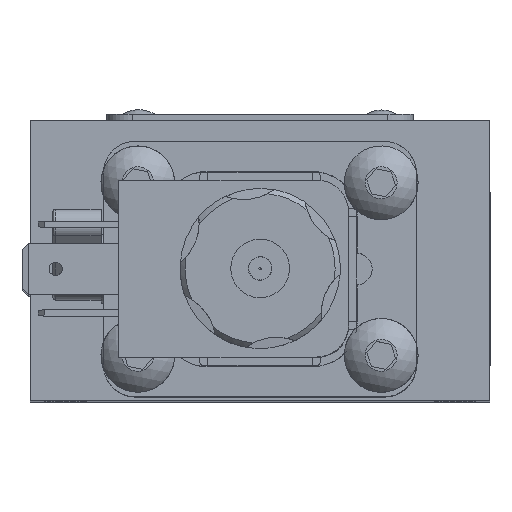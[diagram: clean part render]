
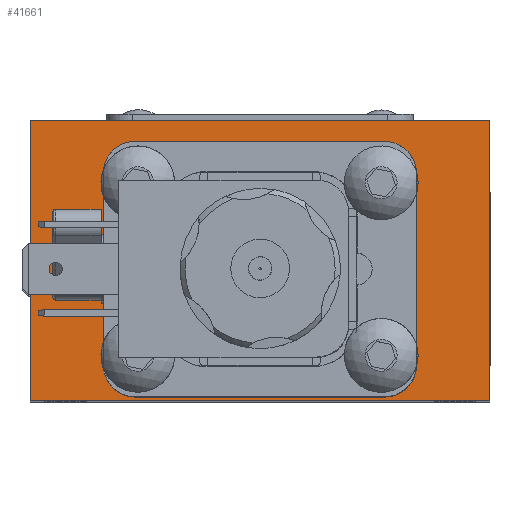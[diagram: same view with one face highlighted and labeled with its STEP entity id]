
A CAD part, top view. The second image highlights one B-rep face of the part: STEP entity #41661.
In plain terms, the highlighted planar face has unit normal (0, 0, 1).
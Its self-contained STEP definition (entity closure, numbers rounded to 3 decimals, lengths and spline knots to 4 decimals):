
#311=FACE_BOUND('',#11616,.T.);
#1361=PLANE('',#44658);
#2783=LINE('',#67185,#5826);
#2788=LINE('',#67220,#5831);
#2789=LINE('',#67222,#5832);
#2790=LINE('',#67223,#5833);
#2791=LINE('',#67226,#5834);
#2792=LINE('',#67230,#5835);
#2793=LINE('',#67234,#5836);
#2794=LINE('',#67238,#5837);
#5826=VECTOR('',#50824,1.);
#5831=VECTOR('',#50855,1.);
#5832=VECTOR('',#50856,1.);
#5833=VECTOR('',#50857,1.);
#5834=VECTOR('',#50858,1.);
#5835=VECTOR('',#50861,1.);
#5836=VECTOR('',#50864,1.);
#5837=VECTOR('',#50867,1.);
#9174=FACE_OUTER_BOUND('',#11615,.T.);
#11615=EDGE_LOOP('',(#29424,#29425,#29426,#29427));
#11616=EDGE_LOOP('',(#29428,#29429,#29430,#29431,#29432,#29433,#29434,#29435));
#14234=CIRCLE('',#44659,0.3969);
#14235=CIRCLE('',#44660,0.3969);
#14236=CIRCLE('',#44661,0.3969);
#14237=CIRCLE('',#44662,0.3969);
#17568=VERTEX_POINT('',#67181);
#17569=VERTEX_POINT('',#67183);
#17586=VERTEX_POINT('',#67219);
#17587=VERTEX_POINT('',#67221);
#17588=VERTEX_POINT('',#67224);
#17589=VERTEX_POINT('',#67225);
#17590=VERTEX_POINT('',#67227);
#17591=VERTEX_POINT('',#67229);
#17592=VERTEX_POINT('',#67231);
#17593=VERTEX_POINT('',#67233);
#17594=VERTEX_POINT('',#67235);
#17595=VERTEX_POINT('',#67237);
#22004=EDGE_CURVE('',#17568,#17569,#2783,.T.);
#22021=EDGE_CURVE('',#17586,#17569,#2788,.T.);
#22022=EDGE_CURVE('',#17586,#17587,#2789,.T.);
#22023=EDGE_CURVE('',#17587,#17568,#2790,.T.);
#22024=EDGE_CURVE('',#17588,#17589,#2791,.T.);
#22025=EDGE_CURVE('',#17589,#17590,#14234,.T.);
#22026=EDGE_CURVE('',#17590,#17591,#2792,.T.);
#22027=EDGE_CURVE('',#17591,#17592,#14235,.T.);
#22028=EDGE_CURVE('',#17592,#17593,#2793,.T.);
#22029=EDGE_CURVE('',#17593,#17594,#14236,.T.);
#22030=EDGE_CURVE('',#17594,#17595,#2794,.T.);
#22031=EDGE_CURVE('',#17595,#17588,#14237,.T.);
#29424=ORIENTED_EDGE('',*,*,#22004,.T.);
#29425=ORIENTED_EDGE('',*,*,#22021,.F.);
#29426=ORIENTED_EDGE('',*,*,#22022,.T.);
#29427=ORIENTED_EDGE('',*,*,#22023,.T.);
#29428=ORIENTED_EDGE('',*,*,#22024,.T.);
#29429=ORIENTED_EDGE('',*,*,#22025,.T.);
#29430=ORIENTED_EDGE('',*,*,#22026,.T.);
#29431=ORIENTED_EDGE('',*,*,#22027,.T.);
#29432=ORIENTED_EDGE('',*,*,#22028,.T.);
#29433=ORIENTED_EDGE('',*,*,#22029,.T.);
#29434=ORIENTED_EDGE('',*,*,#22030,.T.);
#29435=ORIENTED_EDGE('',*,*,#22031,.T.);
#41661=ADVANCED_FACE('',(#9174,#311),#1361,.T.);
#44658=AXIS2_PLACEMENT_3D('',#67218,#50853,#50854);
#44659=AXIS2_PLACEMENT_3D('',#67228,#50859,#50860);
#44660=AXIS2_PLACEMENT_3D('',#67232,#50862,#50863);
#44661=AXIS2_PLACEMENT_3D('',#67236,#50865,#50866);
#44662=AXIS2_PLACEMENT_3D('',#67239,#50868,#50869);
#50824=DIRECTION('',(-1.,0.,0.));
#50853=DIRECTION('center_axis',(0.,0.,1.));
#50854=DIRECTION('ref_axis',(1.,0.,0.));
#50855=DIRECTION('',(0.,1.,0.));
#50856=DIRECTION('',(1.,0.,0.));
#50857=DIRECTION('',(0.,1.,0.));
#50858=DIRECTION('',(1.,0.,0.));
#50859=DIRECTION('center_axis',(0.,0.,
-1.));
#50860=DIRECTION('ref_axis',(-1.,0.,0.));
#50861=DIRECTION('',(0.,-1.,0.));
#50862=DIRECTION('center_axis',(0.,0.,
-1.));
#50863=DIRECTION('ref_axis',(0.,1.,0.));
#50864=DIRECTION('',(-1.,0.,0.));
#50865=DIRECTION('center_axis',(0.,0.,
-1.));
#50866=DIRECTION('ref_axis',(1.,0.,0.));
#50867=DIRECTION('',(0.,1.,0.));
#50868=DIRECTION('center_axis',(0.,0.,
-1.));
#50869=DIRECTION('ref_axis',(0.,-1.,0.));
#67181=CARTESIAN_POINT('',(2.8575,1.8567,4.7104));
#67183=CARTESIAN_POINT('',(-2.8575,1.8567,4.7104));
#67185=CARTESIAN_POINT('',(-2.8575,1.8567,4.7104));
#67218=CARTESIAN_POINT('Origin',(2.8575,0.,4.7104));
#67219=CARTESIAN_POINT('',(-2.8575,-1.6358,4.7104));
#67220=CARTESIAN_POINT('',(-2.8575,0.,4.7104));
#67221=CARTESIAN_POINT('',(2.8575,-1.6358,4.7104));
#67222=CARTESIAN_POINT('',(-2.8575,-1.6358,4.7104));
#67223=CARTESIAN_POINT('',(2.8575,0.,4.7104));
#67224=CARTESIAN_POINT('',(-1.5478,1.5875,4.7104));
#67225=CARTESIAN_POINT('',(1.5478,1.5875,4.7104));
#67226=CARTESIAN_POINT('',(-1.5478,1.5875,4.7104));
#67227=CARTESIAN_POINT('',(1.9447,1.1906,4.7104));
#67228=CARTESIAN_POINT('Origin',(1.5478,1.1906,4.7104));
#67229=CARTESIAN_POINT('',(1.9447,-1.1906,4.7104));
#67230=CARTESIAN_POINT('',(1.9447,1.1906,4.7104));
#67231=CARTESIAN_POINT('',(1.5478,-1.5875,4.7104));
#67232=CARTESIAN_POINT('Origin',(1.5478,-1.1906,4.7104));
#67233=CARTESIAN_POINT('',(-1.5478,-1.5875,4.7104));
#67234=CARTESIAN_POINT('',(1.5478,-1.5875,4.7104));
#67235=CARTESIAN_POINT('',(-1.9447,-1.1906,4.7104));
#67236=CARTESIAN_POINT('Origin',(-1.5478,-1.1906,4.7104));
#67237=CARTESIAN_POINT('',(-1.9447,1.1906,4.7104));
#67238=CARTESIAN_POINT('',(-1.9447,-1.1906,4.7104));
#67239=CARTESIAN_POINT('Origin',(-1.5478,1.1906,4.7104));
